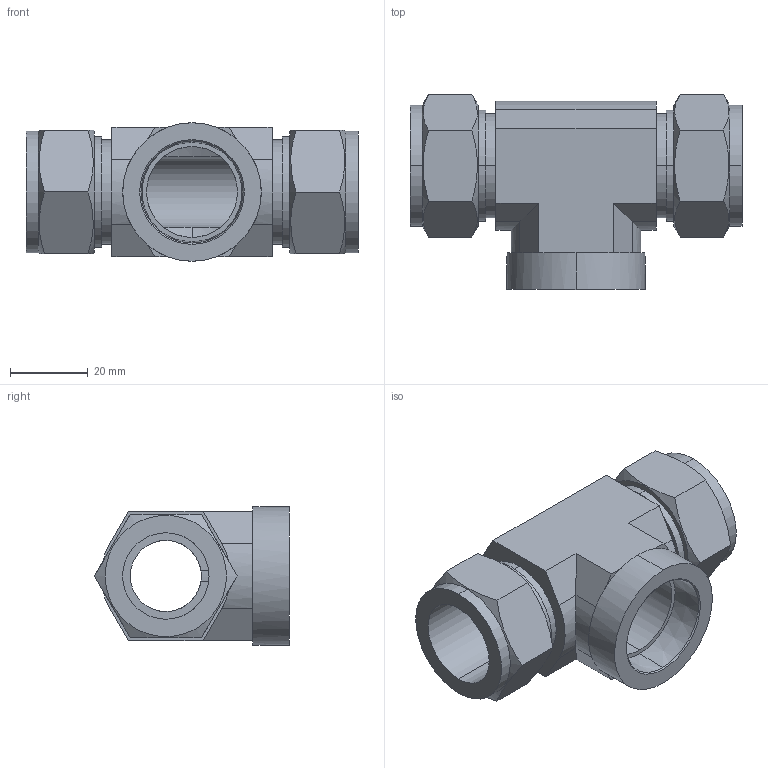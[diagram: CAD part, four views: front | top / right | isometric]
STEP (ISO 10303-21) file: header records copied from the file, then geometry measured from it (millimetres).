
FILE_DESCRIPTION (( 'STEP AP203' ), '1' );
FILE_NAME ('DTH14-12 SS.STEP', '2009-10-26T05:48:46', ( ' ' ), ( '' ), 'SwSTEP 2.0', 'SolidWorks 2008', '' );
FILE_SCHEMA (( 'CONFIG_CONTROL_DESIGN' ));
Length unit declared in the file: millimetre
Products named in the file (1): DTH14-12 SS
Bounding box: 85.4 x 50.13 x 35.6 mm (x, y, z)
Volume: 49622.3 mm3; surface area: 20458.6 mm2
Topology: 1 solids, 1 shells, 89 faces, 220 edges, 139 vertices
Faces by surface type: plane 44, cylinder 30, cone 15
Entity records: 3064 total; most frequent: CARTESIAN_POINT 892, ORIENTED_EDGE 440, DIRECTION 431, EDGE_CURVE 220, AXIS2_PLACEMENT_3D 164, VERTEX_POINT 139, VECTOR 103, LINE 103
